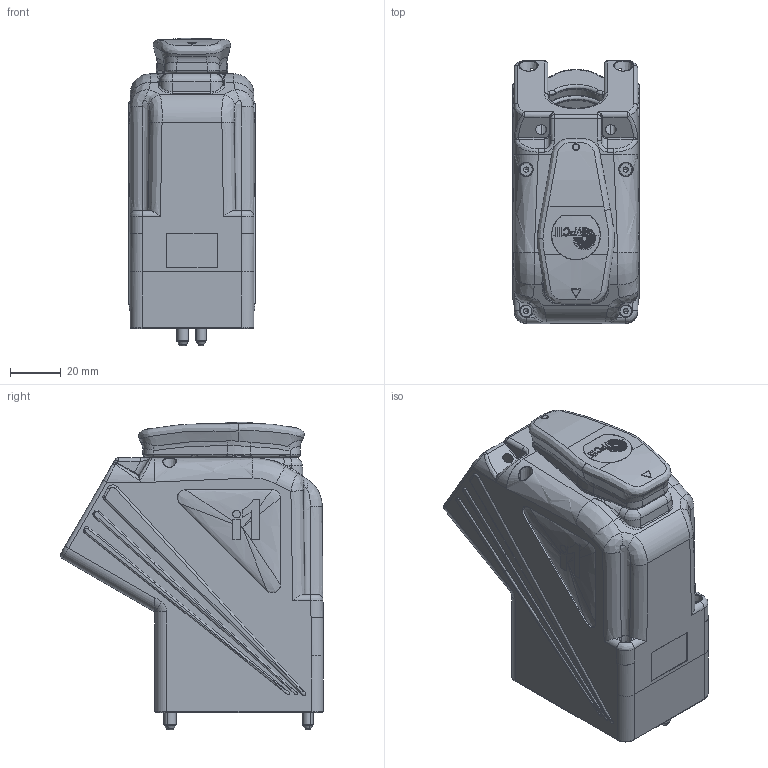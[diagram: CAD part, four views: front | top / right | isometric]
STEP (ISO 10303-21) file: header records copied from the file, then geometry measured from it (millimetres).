
FILE_DESCRIPTION (( 'STEP AP203' ), '1' );
FILE_NAME ('410128101CUST.STEP', '2014-10-10T12:16:23', ( 'VPC Computer Systems' ), ( 'Virginia Panel Corporation' ), 'SwSTEP 2.0', 'SolidWorks 2013', '' );
FILE_SCHEMA (( 'CONFIG_CONTROL_DESIGN' ));
Length unit declared in the file: inch
Products named in the file (1): 410128101CUST
Bounding box: 49.96 x 103.58 x 121.3 mm (x, y, z)
Volume: 135155.3 mm3; surface area: 79827.2 mm2
Topology: 2 solids, 7 shells, 2243 faces, 5637 edges, 3375 vertices
Faces by surface type: plane 713, cylinder 568, bspline 554, torus 180, cone 159, sphere 69
Entity records: 89723 total; most frequent: CARTESIAN_POINT 40945, ORIENTED_EDGE 11052, DIRECTION 9157, EDGE_CURVE 5526, AXIS2_PLACEMENT_3D 3431, VERTEX_POINT 3369, EDGE_LOOP 2355, VECTOR 2295
